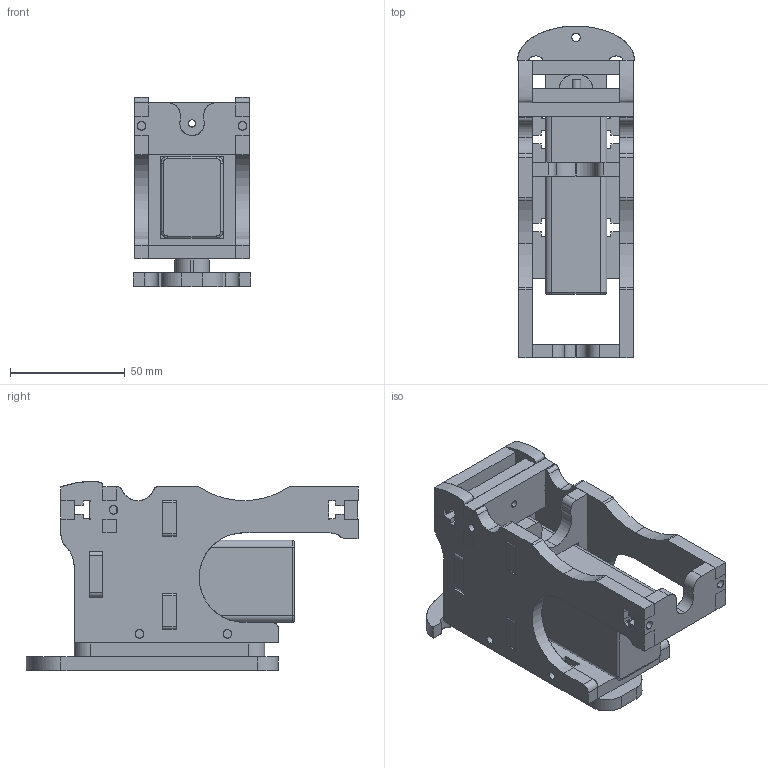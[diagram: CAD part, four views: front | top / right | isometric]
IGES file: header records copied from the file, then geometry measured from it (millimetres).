
Start section: SolidWorks IGES file using analytic representation for surfaces
Global section: file name: C:\Documents and Settings\Jimmy Smith\My Documents\Fab@Home\Model_2\Model_2 CAD\Parasoild\Single Displacement Tool.IGS; native system: SolidWorks 2009; preprocessor: SolidWorks 2009; author: Jimmy Smith; date: 130223.195730; units: millimetre
Bounding box: 51 x 144.64 x 82.37 mm (x, y, z)
Surface area: 81467.1 mm2 (no closed solid volume)
Topology: 0 solids, 0 shells, 531 faces, 6814 edges, 6814 vertices
Faces by surface type: bspline 350, revolution 181
